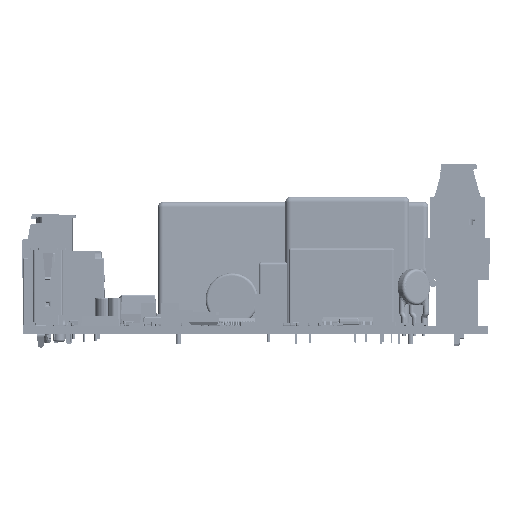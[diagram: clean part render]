
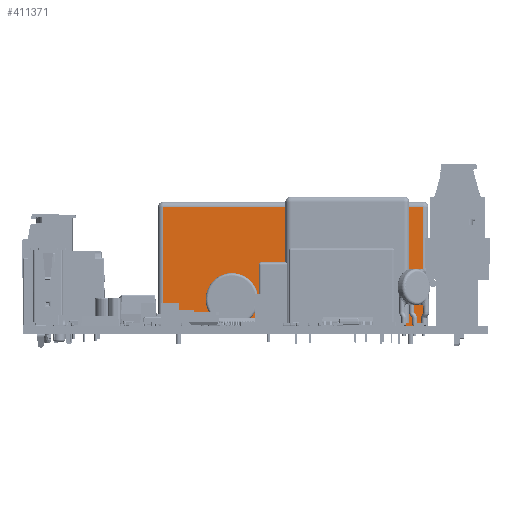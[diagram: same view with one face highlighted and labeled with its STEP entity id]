
A CAD part, left-side view. The second image highlights one B-rep face of the part: STEP entity #411371.
In plain terms, the highlighted planar face has unit normal (-1, 0, 0.023) as drawn and (-1, 0.023, 0) by its records, which use the part's own axes.
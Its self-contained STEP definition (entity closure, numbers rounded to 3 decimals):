
#60179=FACE_OUTER_BOUND('',#84725,.T.);
#84725=EDGE_LOOP('',(#348577,#348578,#348579,#348580));
#118347=LINE('',#733222,#157533);
#118349=LINE('',#733226,#157535);
#118361=LINE('',#733262,#157547);
#118363=LINE('',#733265,#157549);
#157533=VECTOR('',#585759,50.4);
#157535=VECTOR('',#585763,23.029);
#157547=VECTOR('',#585803,23.029);
#157549=VECTOR('',#585807,50.4);
#210116=VERTEX_POINT('',#733204);
#210122=VERTEX_POINT('',#733218);
#210123=VERTEX_POINT('',#733225);
#210133=VERTEX_POINT('',#733260);
#267425=EDGE_CURVE('',#210116,#210122,#118347,.T.);
#267427=EDGE_CURVE('',#210122,#210123,#118349,.T.);
#267446=EDGE_CURVE('',#210133,#210116,#118361,.T.);
#267448=EDGE_CURVE('',#210123,#210133,#118363,.T.);
#348577=ORIENTED_EDGE('',*,*,#267427,.F.);
#348578=ORIENTED_EDGE('',*,*,#267425,.F.);
#348579=ORIENTED_EDGE('',*,*,#267446,.F.);
#348580=ORIENTED_EDGE('',*,*,#267448,.F.);
#387258=PLANE('',#480345);
#411371=ADVANCED_FACE('',(#60179),#387258,.T.);
#480345=AXIS2_PLACEMENT_3D('',#733264,#585805,#585806);
#585759=DIRECTION('',(0.,0.,1.));
#585763=DIRECTION('',(-0.023,-1.,0.));
#585803=DIRECTION('',(0.023,1.,0.));
#585805=DIRECTION('center_axis',(-1.,0.023,
0.));
#585806=DIRECTION('ref_axis',(-0.023,-1.,0.));
#585807=DIRECTION('',(0.,0.,-1.));
#733204=CARTESIAN_POINT('',(-13.072,23.023,-25.2));
#733218=CARTESIAN_POINT('',(-13.072,23.023,25.2));
#733222=CARTESIAN_POINT('',(-13.072,23.023,-25.2));
#733225=CARTESIAN_POINT('',(-13.6,0.,25.2));
#733226=CARTESIAN_POINT('',(-13.072,23.023,25.2));
#733260=CARTESIAN_POINT('',(-13.6,0.,-25.2));
#733262=CARTESIAN_POINT('',(-13.6,0.,-25.2));
#733264=CARTESIAN_POINT('Origin',(-13.05,24.,0.));
#733265=CARTESIAN_POINT('',(-13.6,0.,25.2));
